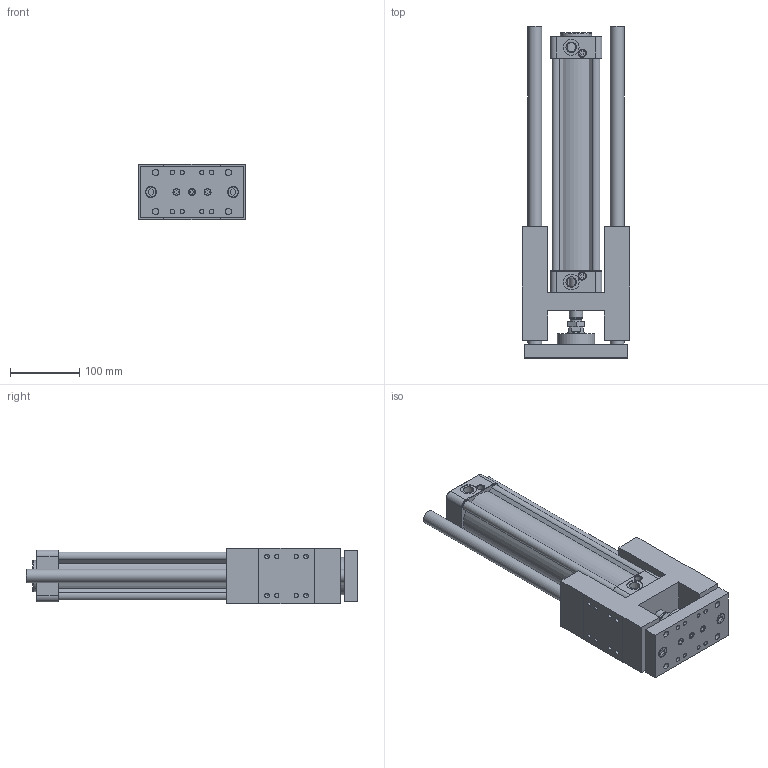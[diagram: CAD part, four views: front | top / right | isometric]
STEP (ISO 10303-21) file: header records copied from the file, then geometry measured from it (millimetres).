
FILE_DESCRIPTION((''),'2;1');
FILE_NAME('I:\3D電子目錄\氣缸\GHB(U)\GHB(U)\GHB(U)63\GHB(U)63x250.stp','2007-10-22T09:03:21',('Administrator'),(''),'Autodesk Inventor 11','Autodesk Inventor 11','');
FILE_SCHEMA(('AUTOMOTIVE_DESIGN { 1 0 10303 214 1 1 1 1 }'));
Length unit declared in the file: millimetre
Products named in the file (1): GHB(U)63
Bounding box: 156 x 480 x 80 mm (x, y, z)
Volume: 2123895.9 mm3; surface area: 453155.6 mm2
Topology: 1 solids, 13 shells, 789 faces, 1754 edges, 1088 vertices
Faces by surface type: plane 303, bspline 237, cylinder 159, cone 88, torus 2
Full cylindrical faces by diameter (mm): 2.5 x2, 6 x4, 6.647 x4, 6.7 x2, 6.75 x4, 7.25 x4, 7.4 x4, 7.5 x2, 8.5 x9, 9 x2, 9.8 x4, 10 x5, 11.5 x1, 11.9 x1, 12 x3, 13 x4, 14 x8, 14.5 x2, 16 x3, 20 x4, 23 x3, 25 x1, 26 x2, 45 x1, 54 x1, 63 x1
Entity records: 22867 total; most frequent: CARTESIAN_POINT 7086, DIRECTION 3132, ORIENTED_EDGE 3076, EDGE_CURVE 1538, AXIS2_PLACEMENT_3D 1207, EDGE_LOOP 1075, VERTEX_POINT 1047, FACE_OUTER_BOUND 789
